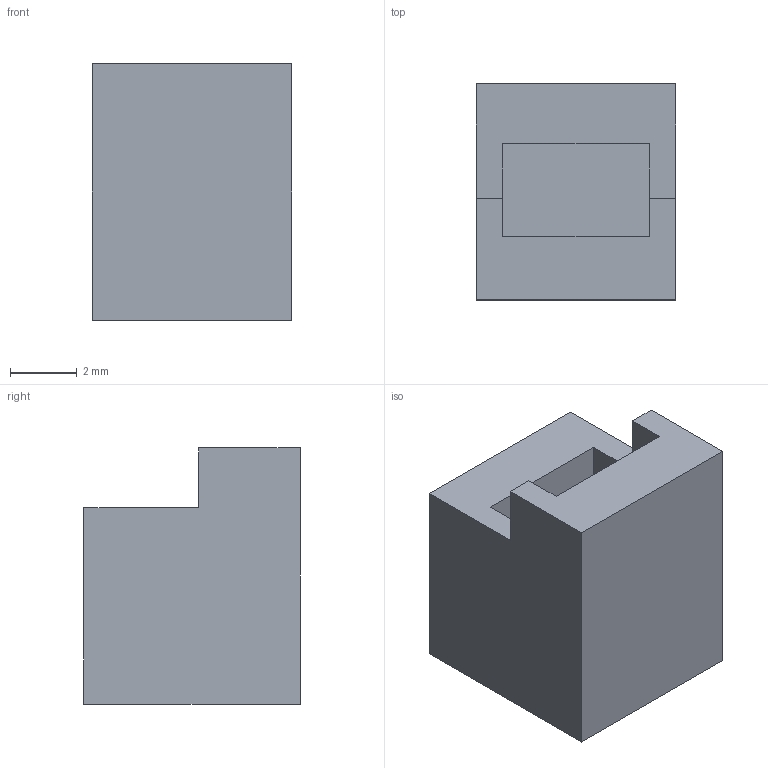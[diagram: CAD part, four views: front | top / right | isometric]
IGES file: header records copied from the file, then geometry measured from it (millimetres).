
Start section:  PTC IGES file: j4a-cn4.igs
Global section: file name: j4a-cn4.igs; native system: Pro/ENGINEER by Parametric Technology Corporation; preprocessor: 2010160; author: CV86875; organization: Unknown; date: 20121031.194150; units: millimetre
Bounding box: 6 x 6.5 x 7.7 mm (x, y, z)
Volume: 191.1 mm3; surface area: 335.7 mm2
Topology: 1 solids, 1 shells, 14 faces, 36 edges, 24 vertices
Faces by surface type: bspline 14
